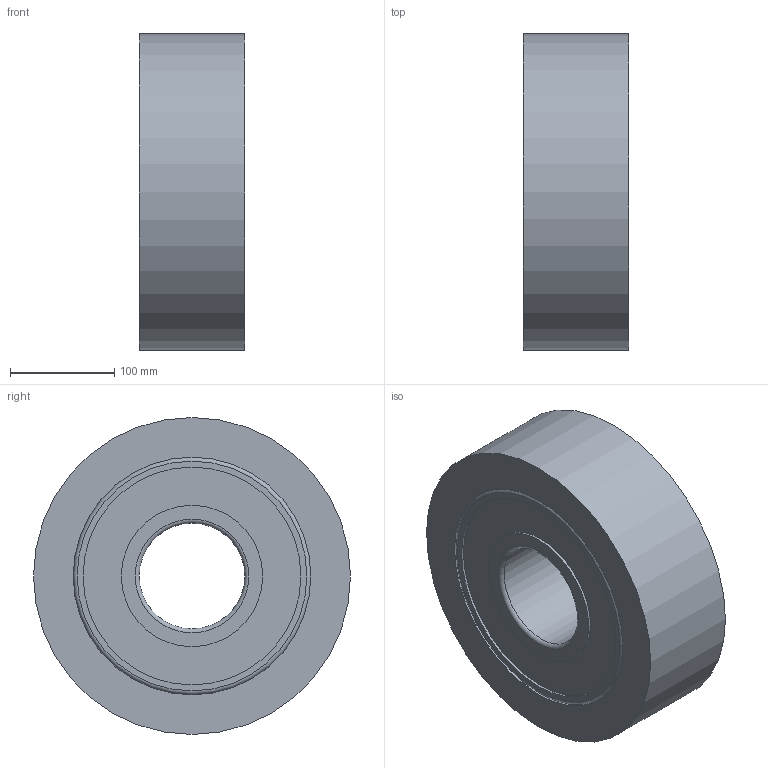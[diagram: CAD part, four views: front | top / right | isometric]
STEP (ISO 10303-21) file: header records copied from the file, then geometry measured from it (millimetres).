
FILE_DESCRIPTION((''),'1');
FILE_NAME('H:/図庫/国内ﾕﾆｯﾄ/ｶﾀﾛｸﾞ/ｺﾞﾑ直巻/ホームページ用ＣＡＤ図面/update用/3', '2017-07-14T08:49:28',(''), (''), 'KCM Version 1.1.1442.0', 'Kubotek KeyCreator', '');
FILE_SCHEMA(('AUTOMOTIVE_DESIGN'));
Length unit declared in the file: inch
Bounding box: 101.6 x 304.8 x 304.8 mm (x, y, z)
Surface area: 272499.4 mm2 (no closed solid volume)
Topology: 0 solids, 20 shells, 20 faces, 68 edges, 56 vertices
Faces by surface type: cylinder 8, plane 8, torus 4
Full cylindrical faces by diameter (mm): 101.6 x1, 135.89 x2, 209.55 x2, 228.6 x2, 304.8 x1
Entity records: 790 total; most frequent: DIRECTION 154, CARTESIAN_POINT 137, ORIENTED_EDGE 80, AXIS2_PLACEMENT_3D 73, EDGE_CURVE 68, VERTEX_POINT 56, CIRCLE 52, EDGE_LOOP 28
